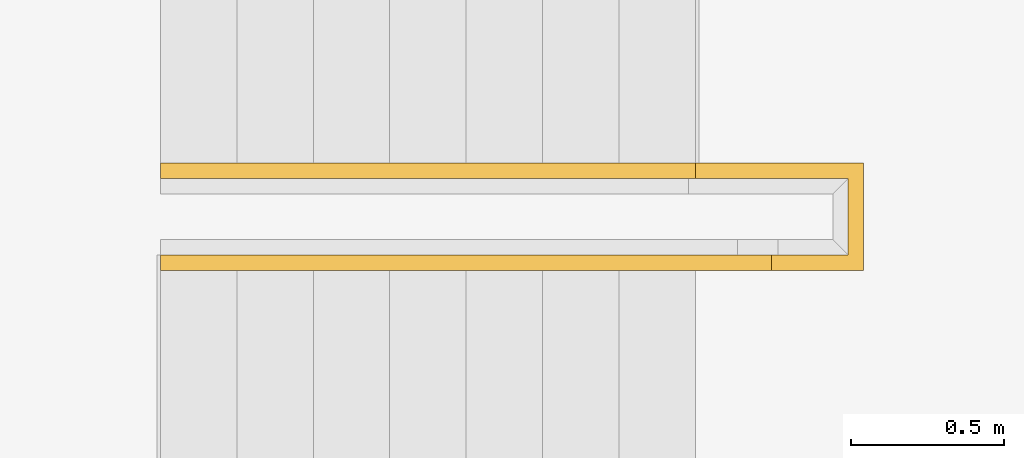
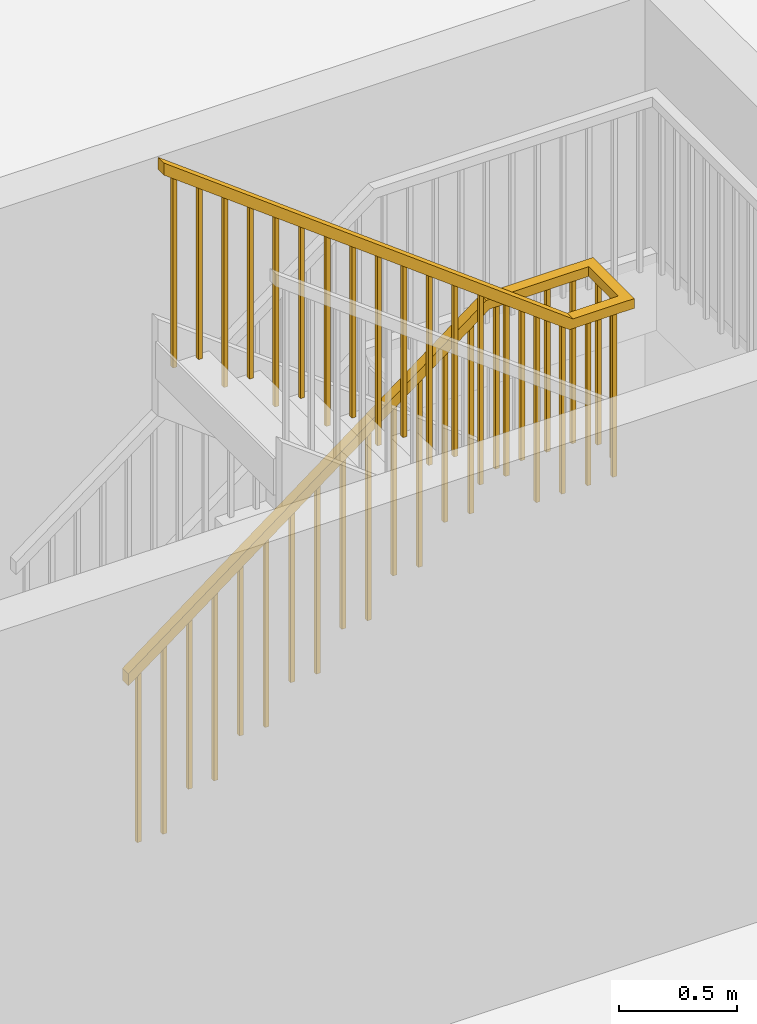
# One storey, part 2 of 2: 1 railing, 1 element without a shape of its own.
"""IFC2X3 building model written with IfcOpenShell, lengths in metres."""

from ifc_helpers import new_model, entity, si_unit, converted_unit, derived_unit, direction, frame, origin, place, context, subcontext, project, spatial, faceted_brep, element, aggregate, save


model = new_model("IFC2X3")

# Units and contexts
model_context = context("Model", 3, precision=1e-05, world=origin(), true_north=direction((6.12303176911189e-17, 1.0)))
context_of_model = context(None, 3, precision=1e-05, world=origin(), true_north=direction((6.12303176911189e-17, 1.0)))
body_context = subcontext(model_context, "Body", "Model", "MODEL_VIEW")
ifc_project = project(units=[si_unit("LENGTHUNIT", "METRE"), si_unit("AREAUNIT", "SQUARE_METRE"), si_unit("VOLUMEUNIT", "CUBIC_METRE"), converted_unit("PLANEANGLEUNIT", "DEGREE", entity("IfcRatioMeasure", 0.0174532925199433), si_unit("PLANEANGLEUNIT", "RADIAN"), dimensions=[0, 0, 0, 0, 0, 0, 0]), si_unit("MASSUNIT", "GRAM", prefix="KILO"), derived_unit("MASSDENSITYUNIT", [(si_unit("MASSUNIT", "GRAM", prefix="KILO"), 1), (si_unit("LENGTHUNIT", "METRE"), -3)]), si_unit("TIMEUNIT", "SECOND"), si_unit("FREQUENCYUNIT", "HERTZ"), si_unit("THERMODYNAMICTEMPERATUREUNIT", "DEGREE_CELSIUS"), derived_unit("THERMALTRANSMITTANCEUNIT", [(si_unit("MASSUNIT", "GRAM", prefix="KILO"), 1), (si_unit("THERMODYNAMICTEMPERATUREUNIT", "KELVIN"), -1), (si_unit("TIMEUNIT", "SECOND"), -3)]), derived_unit("VOLUMETRICFLOWRATEUNIT", [(si_unit("LENGTHUNIT", "METRE"), 3), (si_unit("TIMEUNIT", "SECOND"), -1)]), si_unit("ELECTRICCURRENTUNIT", "AMPERE"), si_unit("ELECTRICVOLTAGEUNIT", "VOLT"), si_unit("POWERUNIT", "WATT"), si_unit("FORCEUNIT", "NEWTON"), si_unit("ILLUMINANCEUNIT", "LUX"), si_unit("LUMINOUSFLUXUNIT", "LUMEN"), si_unit("LUMINOUSINTENSITYUNIT", "CANDELA"), derived_unit("USERDEFINED", [(si_unit("MASSUNIT", "GRAM", prefix="KILO"), -1), (si_unit("LENGTHUNIT", "METRE"), -2), (si_unit("TIMEUNIT", "SECOND"), 3), (si_unit("LUMINOUSFLUXUNIT", "LUMEN"), 1)]), derived_unit("LINEARVELOCITYUNIT", [(si_unit("LENGTHUNIT", "METRE"), 1), (si_unit("TIMEUNIT", "SECOND"), -1)]), si_unit("PRESSUREUNIT", "PASCAL"), derived_unit("USERDEFINED", [(si_unit("LENGTHUNIT", "METRE"), -2), (si_unit("MASSUNIT", "GRAM", prefix="KILO"), 1), (si_unit("TIMEUNIT", "SECOND"), -2)])], contexts=[model_context, context_of_model])

# Site, building, storey
site_placement = place(None, origin())
site = spatial("IfcSite", under=ifc_project, at=site_placement, Name="Default", CompositionType="ELEMENT")
building_placement = place(site_placement, origin())
building = spatial("IfcBuilding", under=site, at=building_placement, CompositionType="ELEMENT")
storey_placement = place(building_placement, frame((0.0, 0.0, -3.0)))
storey = spatial("IfcBuildingStorey", under=building, at=storey_placement, Name="R-1", CompositionType="ELEMENT", Elevation=-3.00000000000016)

# Stair, railing
stair_placement = place(storey_placement, origin())
stair = element("IfcStair", 1, at=stair_placement, inside=storey, Name="Escalier assemblé:Escalier", ObjectType="Escalier assemblé:Contremarche 190 mm max marche 250\xa0mm", ShapeType="NOTDEFINED")
railing_placement = place(stair_placement, frame((5.53266399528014, 0.961410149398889, 0.364705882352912)))
railing = element("IfcRailing", 2, at=railing_placement, Name="Garde-corps:900mm", ObjectType="Garde-corps:900mm", PredefinedType="NOTDEFINED", context=body_context, shape_type="Brep", body=[
    faceted_brep([(0.0725000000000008, 0.0150000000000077, 3.60635283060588), (0.0725000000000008, 0.0150000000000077, 2.63529411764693), (0.0725000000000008, 0.0350000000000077, 2.63529411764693), (0.0725000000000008, 0.0350000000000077, 3.60635283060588), (0.0525000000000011, 0.0350000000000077, 2.63529411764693), (0.0525000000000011, 0.0350000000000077, 3.6214116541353), (0.0525000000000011, 0.0150000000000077, 2.63529411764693), (0.0525000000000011, 0.0150000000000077, 3.6214116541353)], [[[0, 1, 2, 3]], [[3, 2, 4, 5]], [[5, 4, 6, 7]], [[1, 0, 7, 6]], [[0, 3, 5, 7]], [[2, 1, 6, 4]]]),
    faceted_brep([(0.197500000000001, 0.0150000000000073, 3.51223518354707), (0.197500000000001, 0.0150000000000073, 2.63529411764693), (0.197500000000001, 0.0350000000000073, 2.63529411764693), (0.197500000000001, 0.0350000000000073, 3.51223518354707), (0.177500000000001, 0.0350000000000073, 2.63529411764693), (0.177500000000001, 0.0350000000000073, 3.52729400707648), (0.177500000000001, 0.0150000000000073, 2.63529411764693), (0.177500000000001, 0.0150000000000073, 3.52729400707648)], [[[0, 1, 2, 3]], [[3, 2, 4, 5]], [[5, 4, 6, 7]], [[1, 0, 7, 6]], [[0, 3, 5, 7]], [[2, 1, 6, 4]]]),
    faceted_brep([(0.3225, 0.0150000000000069, 3.41811753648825), (0.3225, 0.0150000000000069, 2.44705882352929), (0.3225, 0.0350000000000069, 2.44705882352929), (0.3225, 0.0350000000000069, 3.41811753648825), (0.302500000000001, 0.0350000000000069, 2.44705882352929), (0.302500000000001, 0.0350000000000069, 3.43317636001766), (0.302500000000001, 0.0150000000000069, 2.44705882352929), (0.302500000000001, 0.0150000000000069, 3.43317636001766)], [[[0, 1, 2, 3]], [[3, 2, 4, 5]], [[5, 4, 6, 7]], [[1, 0, 7, 6]], [[0, 3, 5, 7]], [[2, 1, 6, 4]]]),
    faceted_brep([(0.447500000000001, 0.0150000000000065, 3.32399988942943), (0.447500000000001, 0.0150000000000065, 2.44705882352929), (0.447500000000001, 0.0350000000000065, 2.44705882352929), (0.447500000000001, 0.0350000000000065, 3.32399988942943), (0.427500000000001, 0.0350000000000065, 2.44705882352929), (0.427500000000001, 0.0350000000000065, 3.33905871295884), (0.427500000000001, 0.0150000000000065, 2.44705882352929), (0.427500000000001, 0.0150000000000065, 3.33905871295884)], [[[0, 1, 2, 3]], [[3, 2, 4, 5]], [[5, 4, 6, 7]], [[1, 0, 7, 6]], [[0, 3, 5, 7]], [[2, 1, 6, 4]]]),
    faceted_brep([(0.572500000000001, 0.0150000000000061, 3.22988224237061), (0.572500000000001, 0.0150000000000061, 2.25882352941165), (0.572500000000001, 0.0350000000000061, 2.25882352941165), (0.572500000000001, 0.0350000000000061, 3.22988224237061), (0.552500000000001, 0.0350000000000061, 2.25882352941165), (0.552500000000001, 0.0350000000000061, 3.24494106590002), (0.552500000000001, 0.0150000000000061, 2.25882352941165), (0.552500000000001, 0.0150000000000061, 3.24494106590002)], [[[0, 1, 2, 3]], [[3, 2, 4, 5]], [[5, 4, 6, 7]], [[1, 0, 7, 6]], [[0, 3, 5, 7]], [[2, 1, 6, 4]]]),
    faceted_brep([(0.697500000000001, 0.0150000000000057, 3.13576459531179), (0.697500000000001, 0.0150000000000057, 2.25882352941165), (0.697500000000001, 0.0350000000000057, 2.25882352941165), (0.697500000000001, 0.0350000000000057, 3.13576459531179), (0.677500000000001, 0.0350000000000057, 2.25882352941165), (0.677500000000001, 0.0350000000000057, 3.1508234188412), (0.677500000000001, 0.0150000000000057, 2.25882352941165), (0.677500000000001, 0.0150000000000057, 3.1508234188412)], [[[0, 1, 2, 3]], [[3, 2, 4, 5]], [[5, 4, 6, 7]], [[1, 0, 7, 6]], [[0, 3, 5, 7]], [[2, 1, 6, 4]]]),
    faceted_brep([(0.8225, 0.0150000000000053, 3.04164694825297), (0.8225, 0.0150000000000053, 2.07058823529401), (0.8225, 0.0350000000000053, 2.07058823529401), (0.8225, 0.0350000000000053, 3.04164694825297), (0.802500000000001, 0.0350000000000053, 2.07058823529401), (0.802500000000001, 0.0350000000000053, 3.05670577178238), (0.802500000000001, 0.0150000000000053, 2.07058823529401), (0.802500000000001, 0.0150000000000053, 3.05670577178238)], [[[0, 1, 2, 3]], [[3, 2, 4, 5]], [[5, 4, 6, 7]], [[1, 0, 7, 6]], [[0, 3, 5, 7]], [[2, 1, 6, 4]]]),
    faceted_brep([(0.947500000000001, 0.0150000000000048, 2.94752930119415), (0.947500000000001, 0.0150000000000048, 2.07058823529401), (0.947500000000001, 0.0350000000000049, 2.07058823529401), (0.947500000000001, 0.0350000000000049, 2.94752930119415), (0.927500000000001, 0.0350000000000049, 2.07058823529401), (0.927500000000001, 0.0350000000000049, 2.96258812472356), (0.927500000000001, 0.0150000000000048, 2.07058823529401), (0.927500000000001, 0.0150000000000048, 2.96258812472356)], [[[0, 1, 2, 3]], [[3, 2, 4, 5]], [[5, 4, 6, 7]], [[1, 0, 7, 6]], [[0, 3, 5, 7]], [[2, 1, 6, 4]]]),
    faceted_brep([(1.0725, 0.0150000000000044, 2.85341165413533), (1.0725, 0.0150000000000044, 1.88235294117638), (1.0725, 0.0350000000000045, 1.88235294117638), (1.0725, 0.0350000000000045, 2.85341165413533), (1.0525, 0.0350000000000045, 1.88235294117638), (1.0525, 0.0350000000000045, 2.86847047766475), (1.0525, 0.0150000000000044, 1.88235294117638), (1.0525, 0.0150000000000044, 2.86847047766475)], [[[0, 1, 2, 3]], [[3, 2, 4, 5]], [[5, 4, 6, 7]], [[1, 0, 7, 6]], [[0, 3, 5, 7]], [[2, 1, 6, 4]]]),
    faceted_brep([(1.1975, 0.015000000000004, 2.75929400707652), (1.1975, 0.015000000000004, 1.88235294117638), (1.1975, 0.0350000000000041, 1.88235294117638), (1.1975, 0.0350000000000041, 2.75929400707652), (1.1775, 0.0350000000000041, 1.88235294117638), (1.1775, 0.0350000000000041, 2.77435283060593), (1.1775, 0.015000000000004, 1.88235294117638), (1.1775, 0.015000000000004, 2.77435283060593)], [[[0, 1, 2, 3]], [[3, 2, 4, 5]], [[5, 4, 6, 7]], [[1, 0, 7, 6]], [[0, 3, 5, 7]], [[2, 1, 6, 4]]]),
    faceted_brep([(1.3225, 0.0150000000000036, 2.6651763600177), (1.3225, 0.0150000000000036, 1.69411764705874), (1.3225, 0.0350000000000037, 1.69411764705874), (1.3225, 0.0350000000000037, 2.6651763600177), (1.3025, 0.0350000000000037, 1.69411764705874), (1.3025, 0.0350000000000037, 2.68023518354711), (1.3025, 0.0150000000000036, 1.69411764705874), (1.3025, 0.0150000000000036, 2.68023518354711)], [[[0, 1, 2, 3]], [[3, 2, 4, 5]], [[5, 4, 6, 7]], [[1, 0, 7, 6]], [[0, 3, 5, 7]], [[2, 1, 6, 4]]]),
    faceted_brep([(1.4475, 0.0150000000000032, 2.57105871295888), (1.4475, 0.0150000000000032, 1.69411764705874), (1.4475, 0.0350000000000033, 1.69411764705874), (1.4475, 0.0350000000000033, 2.57105871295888), (1.4275, 0.0350000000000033, 1.69411764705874), (1.4275, 0.0350000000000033, 2.58611753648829), (1.4275, 0.0150000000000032, 1.69411764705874), (1.4275, 0.0150000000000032, 2.58611753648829)], [[[0, 1, 2, 3]], [[3, 2, 4, 5]], [[5, 4, 6, 7]], [[1, 0, 7, 6]], [[0, 3, 5, 7]], [[2, 1, 6, 4]]]),
    faceted_brep([(1.5725, 0.0150000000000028, 2.47694106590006), (1.5725, 0.0150000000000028, 1.5058823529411), (1.5725, 0.0350000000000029, 1.5058823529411), (1.5725, 0.0350000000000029, 2.47694106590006), (1.5525, 0.0350000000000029, 1.5058823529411), (1.5525, 0.0350000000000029, 2.49199988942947), (1.5525, 0.0150000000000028, 1.5058823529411), (1.5525, 0.0150000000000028, 2.49199988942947)], [[[0, 1, 2, 3]], [[3, 2, 4, 5]], [[5, 4, 6, 7]], [[1, 0, 7, 6]], [[0, 3, 5, 7]], [[2, 1, 6, 4]]]),
    faceted_brep([(1.6975, 0.0150000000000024, 2.38282341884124), (1.6975, 0.0150000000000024, 1.5058823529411), (1.6975, 0.0350000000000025, 1.5058823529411), (1.6975, 0.0350000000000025, 2.38282341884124), (1.6775, 0.0350000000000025, 1.5058823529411), (1.6775, 0.0350000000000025, 2.39788224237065), (1.6775, 0.0150000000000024, 1.5058823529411), (1.6775, 0.0150000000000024, 2.39788224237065)], [[[0, 1, 2, 3]], [[3, 2, 4, 5]], [[5, 4, 6, 7]], [[1, 0, 7, 6]], [[0, 3, 5, 7]], [[2, 1, 6, 4]]]),
    faceted_brep([(1.8479, 0.015000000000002, 2.26958106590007), (1.8479, 0.015000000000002, 1.31764705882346), (1.8479, 0.0350000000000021, 1.31764705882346), (1.8479, 0.0350000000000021, 2.26958106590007), (1.8279, 0.0350000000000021, 1.31764705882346), (1.8279, 0.0350000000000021, 2.28463988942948), (1.8279, 0.015000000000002, 1.31764705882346), (1.8279, 0.015000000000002, 2.28463988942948)], [[[0, 1, 2, 3]], [[3, 2, 4, 5]], [[5, 4, 6, 7]], [[1, 0, 7, 6]], [[0, 3, 5, 7]], [[2, 1, 6, 4]]]),
    faceted_brep([(1.9729, 0.0150000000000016, 2.17546341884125), (1.9729, 0.0150000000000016, 1.31764705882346), (1.9729, 0.0350000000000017, 1.31764705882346), (1.9729, 0.0350000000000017, 2.17546341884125), (1.9529, 0.0350000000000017, 1.31764705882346), (1.9529, 0.0350000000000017, 2.19052224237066), (1.9529, 0.0150000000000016, 1.31764705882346), (1.9529, 0.0150000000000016, 2.19052224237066)], [[[0, 1, 2, 3]], [[3, 2, 4, 5]], [[5, 4, 6, 7]], [[1, 0, 7, 6]], [[0, 3, 5, 7]], [[2, 1, 6, 4]]]),
    faceted_brep([(2.0979, 0.0150000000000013, 2.16764705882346), (2.0979, 0.0150000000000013, 1.31764705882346), (2.0979, 0.0350000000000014, 1.31764705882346), (2.0979, 0.0350000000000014, 2.16764705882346), (2.0779, 0.0350000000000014, 1.31764705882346), (2.0779, 0.0350000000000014, 2.16764705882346), (2.0779, 0.0150000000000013, 1.31764705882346), (2.0779, 0.0150000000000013, 2.16764705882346)], [[[0, 1, 2, 3]], [[3, 2, 4, 5]], [[5, 4, 6, 7]], [[1, 0, 7, 6]], [[0, 3, 5, 7]], [[2, 1, 6, 4]]]),
    faceted_brep([(2.2229, 0.0150000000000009, 2.16764705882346), (2.2229, 0.0150000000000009, 1.31764705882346), (2.2229, 0.035000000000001, 1.31764705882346), (2.2229, 0.035000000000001, 2.16764705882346), (2.2029, 0.035000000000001, 1.31764705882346), (2.2029, 0.035000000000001, 2.16764705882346), (2.2029, 0.0150000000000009, 1.31764705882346), (2.2029, 0.0150000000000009, 2.16764705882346)], [[[0, 1, 2, 3]], [[3, 2, 4, 5]], [[5, 4, 6, 7]], [[1, 0, 7, 6]], [[0, 3, 5, 7]], [[2, 1, 6, 4]]]),
    faceted_brep([(2.2854, 0.14830000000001, 2.16764705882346), (2.2854, 0.14830000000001, 1.31764705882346), (2.2654, 0.14830000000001, 1.31764705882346), (2.2654, 0.14830000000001, 2.16764705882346), (2.2654, 0.12830000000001, 1.31764705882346), (2.2654, 0.12830000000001, 2.16764705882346), (2.2854, 0.12830000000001, 1.31764705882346), (2.2854, 0.12830000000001, 2.16764705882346)], [[[0, 1, 2, 3]], [[3, 2, 4, 5]], [[5, 4, 6, 7]], [[1, 0, 7, 6]], [[0, 3, 5, 7]], [[2, 1, 6, 4]]]),
    faceted_brep([(2.2854, 0.27330000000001, 2.16764705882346), (2.2854, 0.27330000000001, 1.31764705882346), (2.2654, 0.27330000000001, 1.31764705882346), (2.2654, 0.27330000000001, 2.16764705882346), (2.2654, 0.25330000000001, 1.31764705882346), (2.2654, 0.25330000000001, 2.16764705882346), (2.2854, 0.25330000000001, 1.31764705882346), (2.2854, 0.25330000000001, 2.16764705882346)], [[[0, 1, 2, 3]], [[3, 2, 4, 5]], [[5, 4, 6, 7]], [[1, 0, 7, 6]], [[0, 3, 5, 7]], [[2, 1, 6, 4]]]),
    faceted_brep([(2.1775, 0.33580000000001, 2.16764705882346), (2.1775, 0.33580000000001, 1.31764705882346), (2.1775, 0.31580000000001, 1.31764705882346), (2.1775, 0.315800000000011, 2.16764705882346), (2.1975, 0.315800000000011, 1.31764705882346), (2.1975, 0.315800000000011, 2.16764705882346), (2.1975, 0.335800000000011, 1.31764705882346), (2.1975, 0.33580000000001, 2.16764705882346)], [[[0, 1, 2, 3]], [[3, 2, 4, 5]], [[5, 4, 6, 7]], [[1, 0, 7, 6]], [[0, 3, 5, 7]], [[2, 1, 6, 4]]]),
    faceted_brep([(2.0525, 0.335800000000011, 2.16764705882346), (2.0525, 0.335800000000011, 1.31764705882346), (2.0525, 0.315800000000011, 1.31764705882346), (2.0525, 0.315800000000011, 2.16764705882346), (2.0725, 0.315800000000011, 1.31764705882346), (2.0725, 0.315800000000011, 2.16764705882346), (2.0725, 0.335800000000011, 1.31764705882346), (2.0725, 0.335800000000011, 2.16764705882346)], [[[0, 1, 2, 3]], [[3, 2, 4, 5]], [[5, 4, 6, 7]], [[1, 0, 7, 6]], [[0, 3, 5, 7]], [[2, 1, 6, 4]]]),
    faceted_brep([(1.9275, 0.335800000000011, 2.16764705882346), (1.9275, 0.335800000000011, 1.31764705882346), (1.9275, 0.315800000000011, 1.31764705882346), (1.9275, 0.315800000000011, 2.16764705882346), (1.9475, 0.315800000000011, 1.31764705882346), (1.9475, 0.315800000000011, 2.16764705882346), (1.9475, 0.335800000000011, 1.31764705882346), (1.9475, 0.335800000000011, 2.16764705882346)], [[[0, 1, 2, 3]], [[3, 2, 4, 5]], [[5, 4, 6, 7]], [[1, 0, 7, 6]], [[0, 3, 5, 7]], [[2, 1, 6, 4]]]),
    faceted_brep([(1.8025, 0.335800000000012, 2.16764705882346), (1.8025, 0.335800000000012, 1.31764705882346), (1.8025, 0.315800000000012, 1.31764705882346), (1.8025, 0.315800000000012, 2.16764705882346), (1.8225, 0.315800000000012, 1.31764705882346), (1.8225, 0.315800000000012, 2.16764705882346), (1.8225, 0.335800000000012, 1.31764705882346), (1.8225, 0.335800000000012, 2.16764705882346)], [[[0, 1, 2, 3]], [[3, 2, 4, 5]], [[5, 4, 6, 7]], [[1, 0, 7, 6]], [[0, 3, 5, 7]], [[2, 1, 6, 4]]]),
    faceted_brep([(1.6775, 0.335800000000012, 2.10047047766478), (1.6775, 0.335800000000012, 1.12941176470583), (1.6775, 0.315800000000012, 1.12941176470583), (1.6775, 0.315800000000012, 2.10047047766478), (1.6975, 0.315800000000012, 1.12941176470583), (1.6975, 0.315800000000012, 2.11552930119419), (1.6975, 0.335800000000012, 1.12941176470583), (1.6975, 0.335800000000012, 2.11552930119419)], [[[0, 1, 2, 3]], [[3, 2, 4, 5]], [[5, 4, 6, 7]], [[1, 0, 7, 6]], [[0, 3, 5, 7]], [[2, 1, 6, 4]]]),
    faceted_brep([(1.5525, 0.335800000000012, 2.00635283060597), (1.5525, 0.335800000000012, 1.12941176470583), (1.5525, 0.315800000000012, 1.12941176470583), (1.5525, 0.315800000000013, 2.00635283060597), (1.5725, 0.315800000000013, 1.12941176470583), (1.5725, 0.315800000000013, 2.02141165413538), (1.5725, 0.335800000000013, 1.12941176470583), (1.5725, 0.335800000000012, 2.02141165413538)], [[[0, 1, 2, 3]], [[3, 2, 4, 5]], [[5, 4, 6, 7]], [[1, 0, 7, 6]], [[0, 3, 5, 7]], [[2, 1, 6, 4]]]),
    faceted_brep([(1.4275, 0.335800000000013, 1.91223518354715), (1.4275, 0.335800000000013, 0.941176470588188), (1.4275, 0.315800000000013, 0.941176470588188), (1.4275, 0.315800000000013, 1.91223518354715), (1.4475, 0.315800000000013, 0.941176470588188), (1.4475, 0.315800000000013, 1.92729400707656), (1.4475, 0.335800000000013, 0.941176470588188), (1.4475, 0.335800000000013, 1.92729400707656)], [[[0, 1, 2, 3]], [[3, 2, 4, 5]], [[5, 4, 6, 7]], [[1, 0, 7, 6]], [[0, 3, 5, 7]], [[2, 1, 6, 4]]]),
    faceted_brep([(1.3025, 0.335800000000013, 1.81811753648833), (1.3025, 0.335800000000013, 0.941176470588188), (1.3025, 0.315800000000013, 0.941176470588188), (1.3025, 0.315800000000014, 1.81811753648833), (1.3225, 0.315800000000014, 0.941176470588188), (1.3225, 0.315800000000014, 1.83317636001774), (1.3225, 0.335800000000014, 0.941176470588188), (1.3225, 0.335800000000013, 1.83317636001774)], [[[0, 1, 2, 3]], [[3, 2, 4, 5]], [[5, 4, 6, 7]], [[1, 0, 7, 6]], [[0, 3, 5, 7]], [[2, 1, 6, 4]]]),
    faceted_brep([(1.1775, 0.335800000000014, 1.72399988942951), (1.1775, 0.335800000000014, 0.75294117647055), (1.1775, 0.315800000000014, 0.75294117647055), (1.1775, 0.315800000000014, 1.72399988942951), (1.1975, 0.315800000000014, 0.75294117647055), (1.1975, 0.315800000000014, 1.73905871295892), (1.1975, 0.335800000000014, 0.75294117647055), (1.1975, 0.335800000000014, 1.73905871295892)], [[[0, 1, 2, 3]], [[3, 2, 4, 5]], [[5, 4, 6, 7]], [[1, 0, 7, 6]], [[0, 3, 5, 7]], [[2, 1, 6, 4]]]),
    faceted_brep([(1.0525, 0.335800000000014, 1.62988224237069), (1.0525, 0.335800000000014, 0.75294117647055), (1.0525, 0.315800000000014, 0.75294117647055), (1.0525, 0.315800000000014, 1.62988224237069), (1.0725, 0.315800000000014, 0.75294117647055), (1.0725, 0.315800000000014, 1.6449410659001), (1.0725, 0.335800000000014, 0.75294117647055), (1.0725, 0.335800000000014, 1.6449410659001)], [[[0, 1, 2, 3]], [[3, 2, 4, 5]], [[5, 4, 6, 7]], [[1, 0, 7, 6]], [[0, 3, 5, 7]], [[2, 1, 6, 4]]]),
    faceted_brep([(0.927499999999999, 0.335800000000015, 1.53576459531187), (0.927499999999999, 0.335800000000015, 0.564705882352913), (0.927499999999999, 0.315800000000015, 0.564705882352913), (0.927499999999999, 0.315800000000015, 1.53576459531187), (0.947499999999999, 0.315800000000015, 0.564705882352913), (0.947499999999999, 0.315800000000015, 1.55082341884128), (0.947499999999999, 0.335800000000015, 0.564705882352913), (0.947499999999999, 0.335800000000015, 1.55082341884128)], [[[0, 1, 2, 3]], [[3, 2, 4, 5]], [[5, 4, 6, 7]], [[1, 0, 7, 6]], [[0, 3, 5, 7]], [[2, 1, 6, 4]]]),
    faceted_brep([(0.8025, 0.335800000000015, 1.44164694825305), (0.8025, 0.335800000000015, 0.564705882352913), (0.8025, 0.315800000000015, 0.564705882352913), (0.8025, 0.315800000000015, 1.44164694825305), (0.822499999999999, 0.315800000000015, 0.564705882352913), (0.822499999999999, 0.315800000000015, 1.45670577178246), (0.822499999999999, 0.335800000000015, 0.564705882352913), (0.822499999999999, 0.335800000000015, 1.45670577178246)], [[[0, 1, 2, 3]], [[3, 2, 4, 5]], [[5, 4, 6, 7]], [[1, 0, 7, 6]], [[0, 3, 5, 7]], [[2, 1, 6, 4]]]),
    faceted_brep([(0.677499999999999, 0.335800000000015, 1.34752930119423), (0.677499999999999, 0.335800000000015, 0.376470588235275), (0.677499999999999, 0.315800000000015, 0.376470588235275), (0.677499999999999, 0.315800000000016, 1.34752930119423), (0.697499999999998, 0.315800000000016, 0.376470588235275), (0.697499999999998, 0.315800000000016, 1.36258812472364), (0.697499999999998, 0.335800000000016, 0.376470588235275), (0.697499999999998, 0.335800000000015, 1.36258812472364)], [[[0, 1, 2, 3]], [[3, 2, 4, 5]], [[5, 4, 6, 7]], [[1, 0, 7, 6]], [[0, 3, 5, 7]], [[2, 1, 6, 4]]]),
    faceted_brep([(0.552499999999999, 0.335800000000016, 1.25341165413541), (0.552499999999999, 0.335800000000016, 0.376470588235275), (0.552499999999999, 0.315800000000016, 0.376470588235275), (0.552499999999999, 0.315800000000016, 1.25341165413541), (0.572499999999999, 0.315800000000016, 0.376470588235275), (0.572499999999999, 0.315800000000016, 1.26847047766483), (0.572499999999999, 0.335800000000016, 0.376470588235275), (0.572499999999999, 0.335800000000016, 1.26847047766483)], [[[0, 1, 2, 3]], [[3, 2, 4, 5]], [[5, 4, 6, 7]], [[1, 0, 7, 6]], [[0, 3, 5, 7]], [[2, 1, 6, 4]]]),
    faceted_brep([(0.427499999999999, 0.335800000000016, 1.1592940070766), (0.427499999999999, 0.335800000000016, 0.188235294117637), (0.427499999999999, 0.315800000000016, 0.188235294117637), (0.427499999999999, 0.315800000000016, 1.1592940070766), (0.447499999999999, 0.315800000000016, 0.188235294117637), (0.447499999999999, 0.315800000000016, 1.17435283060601), (0.447499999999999, 0.335800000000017, 0.188235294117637), (0.447499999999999, 0.335800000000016, 1.17435283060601)], [[[0, 1, 2, 3]], [[3, 2, 4, 5]], [[5, 4, 6, 7]], [[1, 0, 7, 6]], [[0, 3, 5, 7]], [[2, 1, 6, 4]]]),
    faceted_brep([(0.302499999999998, 0.335800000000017, 1.06517636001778), (0.302499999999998, 0.335800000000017, 0.188235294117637), (0.302499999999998, 0.315800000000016, 0.188235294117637), (0.302499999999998, 0.315800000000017, 1.06517636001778), (0.322499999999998, 0.315800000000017, 0.188235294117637), (0.322499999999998, 0.315800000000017, 1.08023518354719), (0.322499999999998, 0.335800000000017, 0.188235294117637), (0.322499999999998, 0.335800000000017, 1.08023518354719)], [[[0, 1, 2, 3]], [[3, 2, 4, 5]], [[5, 4, 6, 7]], [[1, 0, 7, 6]], [[0, 3, 5, 7]], [[2, 1, 6, 4]]]),
    faceted_brep([(0.177499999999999, 0.335800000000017, 0.971058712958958), (0.177499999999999, 0.335800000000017, 0.0), (0.177499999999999, 0.315800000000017, 0.0), (0.177499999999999, 0.315800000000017, 0.971058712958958), (0.197499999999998, 0.315800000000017, 0.0), (0.197499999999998, 0.315800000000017, 0.986117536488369), (0.197499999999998, 0.335800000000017, 0.0), (0.197499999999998, 0.335800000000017, 0.986117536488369)], [[[0, 1, 2, 3]], [[3, 2, 4, 5]], [[5, 4, 6, 7]], [[1, 0, 7, 6]], [[0, 3, 5, 7]], [[2, 1, 6, 4]]]),
    faceted_brep([(0.0524999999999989, 0.335800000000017, 0.876941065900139), (0.0524999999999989, 0.335800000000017, 0.0), (0.0524999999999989, 0.315800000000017, 0.0), (0.0524999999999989, 0.315800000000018, 0.876941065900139), (0.0724999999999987, 0.315800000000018, 0.0), (0.0724999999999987, 0.315800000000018, 0.891999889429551), (0.0724999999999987, 0.335800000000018, 0.0), (0.0724999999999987, 0.335800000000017, 0.891999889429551)], [[[0, 1, 2, 3]], [[3, 2, 4, 5]], [[5, 4, 6, 7]], [[1, 0, 7, 6]], [[0, 3, 5, 7]], [[2, 1, 6, 4]]]),
    faceted_brep([(0.0, 0.350800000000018, 0.900000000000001), (0.0, 0.350800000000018, 0.837411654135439), (0.0, 0.300800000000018, 0.83741165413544), (0.0, 0.300800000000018, 0.900000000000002), (1.75, 0.350800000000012, 2.21764705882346), (1.76671889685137, 0.350800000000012, 2.16764705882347), (1.76671889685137, 0.300800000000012, 2.16764705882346), (1.75, 0.300800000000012, 2.21764705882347), (2.3004, 0.35080000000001, 2.21764705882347), (2.3004, 0.35080000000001, 2.16764705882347), (2.2504, 0.300800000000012, 2.16764705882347), (2.2504, 0.30080000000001, 2.21764705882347), (2.3004, 0.0, 2.21764705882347), (2.3004, 0.0, 2.16764705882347), (2.2504, 0.0500000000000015, 2.16764705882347), (2.2504, 0.0500000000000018, 2.21764705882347), (2.0, 0.0, 2.21764705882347), (1.98328110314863, 0.0, 2.16764705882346), (1.98328110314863, 0.050000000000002, 2.16764705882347), (2.0, 0.0500000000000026, 2.21764705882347), (1.75, 0.0, 2.4058823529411), (1.71992486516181, 0.0, 2.36593881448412), (1.71992486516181, 0.0500000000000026, 2.36593881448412), (1.75, 0.0500000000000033, 2.4058823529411), (0.0, 0.0, 3.72352941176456), (0.0, 0.0500000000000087, 3.72352941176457), (0.0, 0.0500000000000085, 3.6609410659), (0.0, 0.0, 3.6609410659)], [[[0, 1, 2, 3]], [[1, 0, 4, 5]], [[2, 1, 5, 6]], [[3, 2, 6, 7]], [[0, 3, 7, 4]], [[5, 4, 8, 9]], [[6, 5, 9, 10]], [[7, 6, 10, 11]], [[4, 7, 11, 8]], [[9, 8, 12, 13]], [[10, 9, 13, 14]], [[11, 10, 14, 15]], [[8, 11, 15, 12]], [[13, 12, 16, 17]], [[14, 13, 17, 18]], [[15, 14, 18, 19]], [[12, 15, 19, 16]], [[17, 16, 20, 21]], [[18, 17, 21, 22]], [[19, 18, 22, 23]], [[16, 19, 23, 20]], [[24, 25, 26, 27]], [[21, 20, 24, 27]], [[22, 21, 27, 26]], [[23, 22, 26, 25]], [[20, 23, 25, 24]]]),
])
aggregate(stair, [railing])

save(model, "model.ifc")
